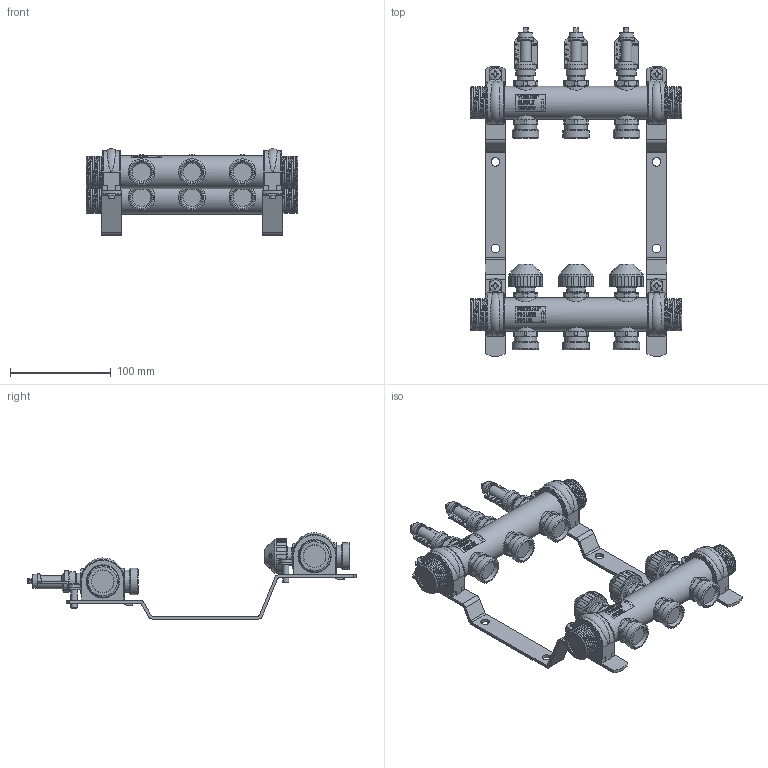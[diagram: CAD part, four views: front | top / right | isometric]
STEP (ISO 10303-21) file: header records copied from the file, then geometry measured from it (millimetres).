
FILE_DESCRIPTION((''),'2;1');
FILE_NAME('C:\Users\duckj\Desktop\10026185.stp','2017-04-18T13:56:37',('duckj'),(''),'Autodesk Inventor 2013','Autodesk Inventor 2013','');
FILE_SCHEMA(('CONFIG_CONTROL_DESIGN'));
Length unit declared in the file: millimetre
Products named in the file (4): 18042017_005; 18042017_003; 18042017_004; 26102016_005
Assembly tree (4 placements, depth 2):
  18042017_005
    18042017_003
    18042017_004
    26102016_005  x2
Bounding box: 210 x 325.94 x 85.7 mm (x, y, z)
Volume: 331717 mm3; surface area: 144163.5 mm2
Topology: 11 solids, 15 shells, 2310 faces, 6151 edges, 4028 vertices
Faces by surface type: plane 1262, cylinder 405, bspline 386, cone 210, torus 43, sphere 4
Full cylindrical faces by diameter (mm): 3 x3, 6 x8, 8.5 x4, 12 x4, 15 x3, 15.5 x3, 16.5 x3, 18 x3, 19.5 x3, 21.8 x12, 22 x22, 26.441 x6, 33 x6, 33.7 x3
Entity records: 127703 total; most frequent: CARTESIAN_POINT 75629, ORIENTED_EDGE 11174, DIRECTION 8840, EDGE_CURVE 5587, VERTEX_POINT 3717, AXIS2_PLACEMENT_3D 2965, VECTOR 2910, LINE 2910
